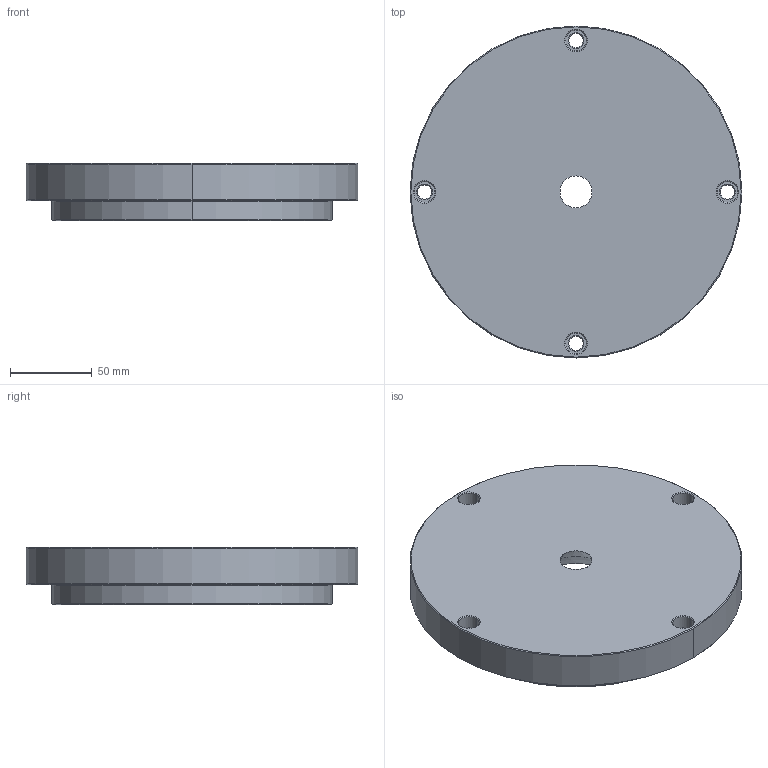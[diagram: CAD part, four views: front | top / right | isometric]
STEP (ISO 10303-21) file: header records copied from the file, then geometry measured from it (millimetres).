
FILE_DESCRIPTION((''),'2;1');
FILE_NAME('RMC-81301','2007-10-01T',('glafferty'),('Pleasant Precision, Inc. (419)675-0556'),'PRO/ENGINEER BY PARAMETRIC TECHNOLOGY CORPORATION, 2006080','PRO/ENGINEER BY PARAMETRIC TECHNOLOGY CORPORATION, 2006080','');
FILE_SCHEMA(('CONFIG_CONTROL_DESIGN'));
Length unit declared in the file: inch
Products named in the file (1): RMC-81301
Bounding box: 203.2 x 203.2 x 34.92 mm (x, y, z)
Volume: 915114.7 mm3; surface area: 89532.8 mm2
Topology: 1 solids, 1 shells, 67 faces, 142 edges, 82 vertices
Faces by surface type: cone 34, cylinder 20, plane 7, torus 6
Entity records: 1860 total; most frequent: DIRECTION 364, CARTESIAN_POINT 291, ORIENTED_EDGE 284, AXIS2_PLACEMENT_3D 155, EDGE_CURVE 142, CIRCLE 88, VERTEX_POINT 82, EDGE_LOOP 82
